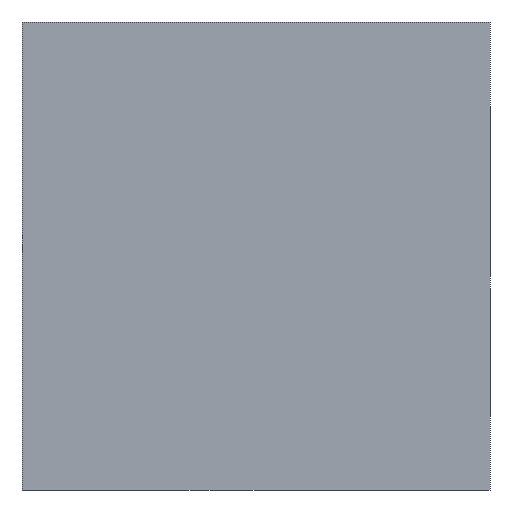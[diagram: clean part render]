
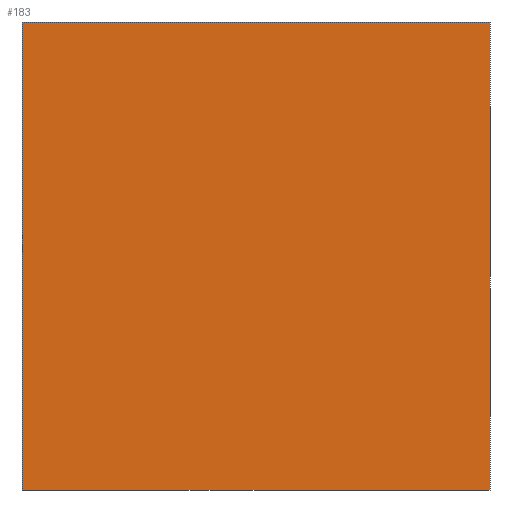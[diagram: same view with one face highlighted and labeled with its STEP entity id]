
A CAD part, front view. The second image highlights one B-rep face of the part: STEP entity #183.
In plain terms, the highlighted planar face has unit normal (0, -1, 0).
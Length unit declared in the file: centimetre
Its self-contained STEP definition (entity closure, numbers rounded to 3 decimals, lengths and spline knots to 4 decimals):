
#16 = DIRECTION ( 'NONE',  ( 0., 0., -1. ) ) ;
#40 = EDGE_CURVE ( 'NONE', #414, #1090, #495, .T. ) ;
#105 = CARTESIAN_POINT ( 'NONE',  ( 1000., 0., 0. ) ) ;
#183 = ADVANCED_FACE ( 'NONE', ( #301 ), #330, .F. ) ;
#201 = DIRECTION ( 'NONE',  ( 0., 0., -1. ) ) ;
#245 = DIRECTION ( 'NONE',  ( 0., 0., 1. ) ) ;
#262 = CARTESIAN_POINT ( 'NONE',  ( 1000., 0., 1000. ) ) ;
#301 = FACE_OUTER_BOUND ( 'NONE', #369, .T. ) ;
#314 = LINE ( 'NONE', #503, #993 ) ;
#330 = PLANE ( 'NONE',  #500 ) ;
#369 = EDGE_LOOP ( 'NONE', ( #526, #810, #749, #1000 ) ) ;
#414 = VERTEX_POINT ( 'NONE', #1004 ) ;
#495 = LINE ( 'NONE', #909, #670 ) ;
#500 = AXIS2_PLACEMENT_3D ( 'NONE', #673, #948, #245 ) ;
#503 = CARTESIAN_POINT ( 'NONE',  ( 0., 0., 0. ) ) ;
#526 = ORIENTED_EDGE ( 'NONE', *, *, #945, .T. ) ;
#561 = LINE ( 'NONE', #985, #805 ) ;
#585 = DIRECTION ( 'NONE',  ( 1., 0., 0. ) ) ;
#591 = VECTOR ( 'NONE', #16, 100. ) ;
#609 = CARTESIAN_POINT ( 'NONE',  ( 1000., 0., 1000. ) ) ;
#650 = DIRECTION ( 'NONE',  ( 1., 0., 0. ) ) ;
#670 = VECTOR ( 'NONE', #650, 100. ) ;
#673 = CARTESIAN_POINT ( 'NONE',  ( 0., 0., 1000. ) ) ;
#749 = ORIENTED_EDGE ( 'NONE', *, *, #40, .F. ) ;
#805 = VECTOR ( 'NONE', #201, 100. ) ;
#810 = ORIENTED_EDGE ( 'NONE', *, *, #1066, .F. ) ;
#833 = CARTESIAN_POINT ( 'NONE',  ( 0., 0., 0. ) ) ;
#867 = EDGE_CURVE ( 'NONE', #414, #888, #561, .T. ) ;
#872 = LINE ( 'NONE', #609, #591 ) ;
#888 = VERTEX_POINT ( 'NONE', #833 ) ;
#909 = CARTESIAN_POINT ( 'NONE',  ( 0., 0., 1000. ) ) ;
#945 = EDGE_CURVE ( 'NONE', #888, #1074, #314, .T. ) ;
#948 = DIRECTION ( 'NONE',  ( 0., 1., 0. ) ) ;
#985 = CARTESIAN_POINT ( 'NONE',  ( 0., 0., 1000. ) ) ;
#993 = VECTOR ( 'NONE', #585, 100. ) ;
#1000 = ORIENTED_EDGE ( 'NONE', *, *, #867, .T. ) ;
#1004 = CARTESIAN_POINT ( 'NONE',  ( 0., 0., 1000. ) ) ;
#1066 = EDGE_CURVE ( 'NONE', #1090, #1074, #872, .T. ) ;
#1074 = VERTEX_POINT ( 'NONE', #105 ) ;
#1090 = VERTEX_POINT ( 'NONE', #262 ) ;
